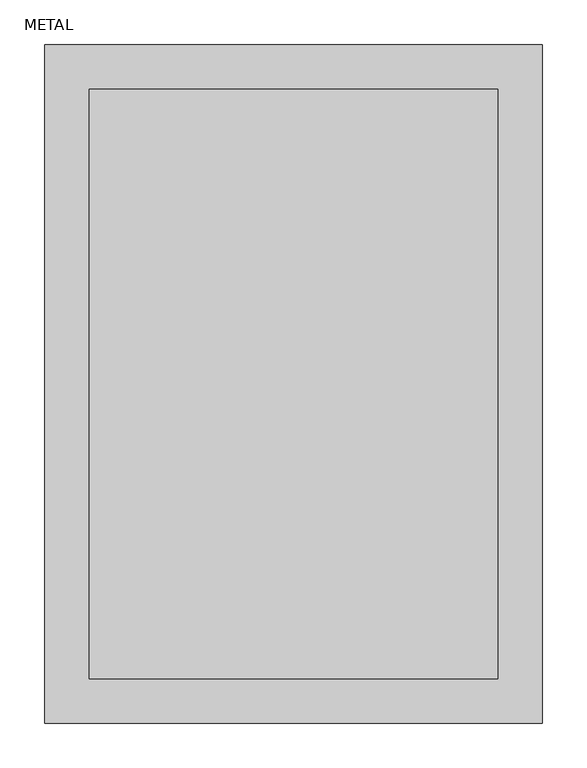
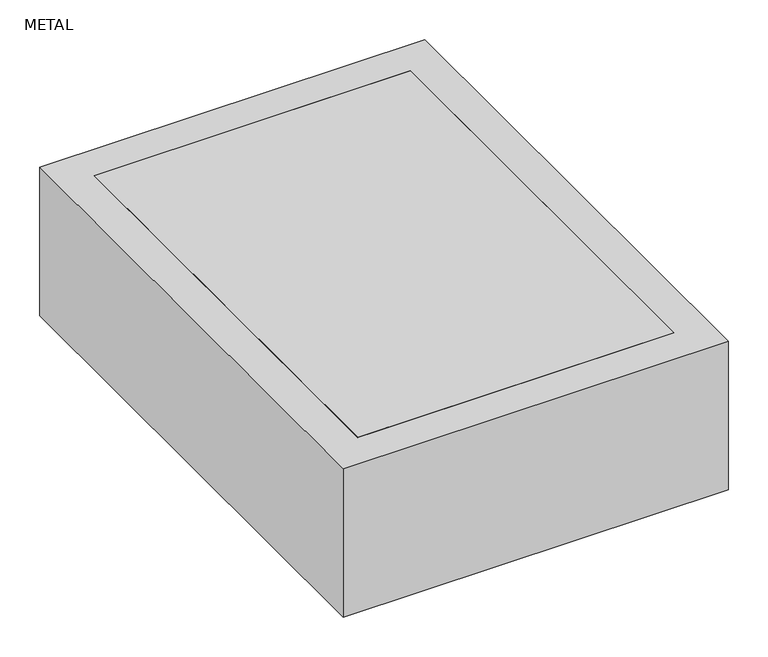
"""IFC4 building model written with IfcOpenShell, lengths in millimetres: proxy geometry, Skylite : METAL."""

import ifcopenshell
import ifcopenshell.guid

model = None  # the IFC model being written
_history = None  # IfcOwnerHistory: only IFC2X3 demands one
_inside = {}  # id of a spatial element -> (the spatial element, [elements in it])
_under = {}  # id of a project, library or spatial element -> (it, [spatial elements below it])
_declared = {}  # id of a project -> (the project, [libraries it declares])
_typed = {}  # id of a type object -> (the type object, [elements of that type])
_made_of = {}  # id of a material, layer set ... -> (it, [elements and type objects made of it])


def new_model(schema):
    """Start an empty IFC model of exactly this schema.

    Asked for "IFC4X3", IfcOpenShell would pick the latest addendum, in which some entities
    have other attributes; the version numbers below select the first issue.
    IFC2X3 requires an IfcOwnerHistory on every rooted entity: one is made here for all.
    """
    global model, _history
    if schema == "IFC4X3":
        model = ifcopenshell.file(schema_version=(4, 3, 0, 0))
    else:
        model = ifcopenshell.file(schema=schema)
    _inside.clear()
    _under.clear()
    _declared.clear()
    _typed.clear()
    _made_of.clear()
    _history = None
    if model.schema == "IFC2X3":
        org = make("IfcOrganization", Name="unknown")
        user = make(
            "IfcPersonAndOrganization",
            ThePerson=make("IfcPerson", FamilyName="unknown"),
            TheOrganization=org,
        )
        app = make(
            "IfcApplication",
            ApplicationDeveloper=org,
            Version="unknown",
            ApplicationFullName="unknown",
            ApplicationIdentifier="unknown",
        )
        _history = make(
            "IfcOwnerHistory",
            OwningUser=user,
            OwningApplication=app,
            ChangeAction="ADDED",
            CreationDate=0,
        )
    return model


def make(cls, **values):
    """One entity of the class cls with the attributes given. An attribute that is None is left unset."""
    return model.create_entity(
        cls, **{name: value for name, value in values.items() if value is not None}
    )


def rooted(cls, **values):
    """An entity with a GlobalId (a new one), such as an element, a storey or a relation."""
    return make(cls, GlobalId=ifcopenshell.guid.new(), OwnerHistory=_history, **values)


def si_unit(unit_type, name, prefix=None):
    """IfcSIUnit, for example si_unit("LENGTHUNIT", "METRE", prefix="MILLI")."""
    return make("IfcSIUnit", UnitType=unit_type, Prefix=prefix, Name=name)


def assignment(units):
    """IfcUnitAssignment: the units of a project."""
    return None if units is None else make("IfcUnitAssignment", Units=units)


def point(xyz):
    """IfcCartesianPoint."""
    return None if xyz is None else make("IfcCartesianPoint", Coordinates=xyz)


def direction(xyz):
    """IfcDirection."""
    return None if xyz is None else make("IfcDirection", DirectionRatios=xyz)


def frame(location, z_axis=None, x_axis=None):
    """IfcAxis2Placement3D, a coordinate frame: its origin and axes. An axis left out is left unset."""
    return make(
        "IfcAxis2Placement3D",
        Location=point(location),
        Axis=direction(z_axis),
        RefDirection=direction(x_axis),
    )


def origin():
    """The frame at (0, 0, 0) with its axes left unset."""
    return frame((0.0, 0.0, 0.0))


def place(relative_to, where):
    """IfcLocalPlacement: puts the frame where relative to a parent placement (None: the world)."""
    return make(
        "IfcLocalPlacement", PlacementRelTo=relative_to, RelativePlacement=where
    )


def context(
    kind, dimensions, precision=None, world=None, true_north=None, identifier=None
):
    """IfcGeometricRepresentationContext, for example the 3D "Model" context."""
    return make(
        "IfcGeometricRepresentationContext",
        ContextIdentifier=identifier,
        ContextType=kind,
        CoordinateSpaceDimension=dimensions,
        Precision=precision,
        WorldCoordinateSystem=world,
        TrueNorth=true_north,
    )


def project(units=None, contexts=None):
    """IfcProject with its units and contexts."""
    return rooted(
        "IfcProject",
        Name="project",
        RepresentationContexts=contexts,
        UnitsInContext=assignment(units),
    )


def spatial(cls, under=None, at=None, **own):
    """A site, building, storey or space (cls), placed at a placement, below another one or the project."""
    s = rooted(cls, ObjectPlacement=at, **own)
    if under is not None:
        _under.setdefault(under.id(), (under, []))[1].append(s)
    return s


def polyline(points):
    """IfcPolyline through the points."""
    return make("IfcPolyline", Points=[point(p) for p in points])


def outline(outer, holes=None, kind="AREA"):
    """IfcArbitraryClosedProfileDef: a profile drawn as a closed curve; with holes, ...WithVoids."""
    if holes is None:
        return make("IfcArbitraryClosedProfileDef", ProfileType=kind, OuterCurve=outer)
    return make(
        "IfcArbitraryProfileDefWithVoids",
        ProfileType=kind,
        OuterCurve=outer,
        InnerCurves=holes,
    )


def extrude(swept, where, along, depth):
    """IfcExtrudedAreaSolid: the profile swept, set in the frame where, extruded along a direction by depth."""
    return make(
        "IfcExtrudedAreaSolid",
        SweptArea=swept,
        Position=where,
        ExtrudedDirection=direction(along),
        Depth=depth,
    )


def shape(context_of_items, identifier, shape_type, items):
    """IfcShapeRepresentation: the items that make up one representation, for example the "Body"."""
    return make(
        "IfcShapeRepresentation",
        ContextOfItems=context_of_items,
        RepresentationIdentifier=identifier,
        RepresentationType=shape_type,
        Items=items,
    )


def source(mapping_origin, context_of_items, identifier, shape_type, items):
    """IfcRepresentationMap: a shape defined once, which mapped items show again and again."""
    return make(
        "IfcRepresentationMap",
        MappingOrigin=mapping_origin,
        MappedRepresentation=shape(context_of_items, identifier, shape_type, items),
    )


def transform(
    local_origin,
    x_axis=None,
    y_axis=None,
    z_axis=None,
    scale=None,
    scale2=None,
    scale3=None,
    uniform=True,
):
    """IfcCartesianTransformationOperator3D, or its non-uniform kind. x_axis, y_axis, z_axis: its Axis1, 2, 3."""
    if uniform:
        return make(
            "IfcCartesianTransformationOperator3D",
            Axis1=direction(x_axis),
            Axis2=direction(y_axis),
            LocalOrigin=point(local_origin),
            Scale=scale,
            Axis3=direction(z_axis),
        )
    return make(
        "IfcCartesianTransformationOperator3DnonUniform",
        Axis1=direction(x_axis),
        Axis2=direction(y_axis),
        LocalOrigin=point(local_origin),
        Scale=scale,
        Axis3=direction(z_axis),
        Scale2=scale2,
        Scale3=scale3,
    )


def mapped(mapping_source, mapping_target):
    """IfcMappedItem: shows the shape of a source again, moved by a transform."""
    return make(
        "IfcMappedItem", MappingSource=mapping_source, MappingTarget=mapping_target
    )


def made_of(thing, what):
    """Note that an element or type object is made of a material, layer set ...; save() writes the relation."""
    if what is not None:
        _made_of.setdefault(what.id(), (what, []))[1].append(thing)
    return thing


def element(
    cls,
    number,
    at=None,
    inside=None,
    cuts=None,
    type_object=None,
    material=None,
    context=None,
    identifier="Body",
    shape_type=None,
    held_by="IfcProductDefinitionShape",
    body=None,
    shapes=None,
    **own,
):
    """One element of the class cls, such as IfcWall. Its Tag is "e" and its number.

    at: its placement. inside: the storey or other place that contains it. cuts: it is an
    opening in that element (IfcRelVoidsElement). A single representation is given by context,
    identifier, shape_type and body (its items); several are given by shapes. held_by: the class
    of the entity that holds the representations. save() writes the other relations.
    """
    e = rooted(cls, Tag="e%d" % number, ObjectPlacement=at, **own)
    if body is not None:
        shapes = [shape(context, identifier, shape_type, body)]
    if shapes is not None:
        e.Representation = make(held_by, Representations=shapes)
    if inside is not None:
        _inside.setdefault(inside.id(), (inside, []))[1].append(e)
    if cuts is not None:
        rooted(
            "IfcRelVoidsElement", RelatingBuildingElement=cuts, RelatedOpeningElement=e
        )
    if type_object is not None:
        _typed.setdefault(type_object.id(), (type_object, []))[1].append(e)
    return made_of(e, material)


def aggregate(whole, parts):
    """IfcRelAggregates: a whole, such as a stair, and the parts it consists of."""
    return rooted("IfcRelAggregates", RelatingObject=whole, RelatedObjects=parts)


def save(model, path):
    """Write the relations noted so far, then the file.

    IfcRelAggregates (storeys below a building ...), IfcRelContainedInSpatialStructure (elements
    in a storey), IfcRelDefinesByType, IfcRelAssociatesMaterial and IfcRelDeclares: one each for
    every whole, place, type object, material and project.
    """
    for whole, parts in _under.values():
        aggregate(whole, parts)
    for where, things in _inside.values():
        rooted(
            "IfcRelContainedInSpatialStructure",
            RelatedElements=things,
            RelatingStructure=where,
        )
    for kind, things in _typed.values():
        rooted("IfcRelDefinesByType", RelatedObjects=things, RelatingType=kind)
    for what, things in _made_of.values():
        rooted("IfcRelAssociatesMaterial", RelatedObjects=things, RelatingMaterial=what)
    for by, libraries in _declared.values():
        rooted("IfcRelDeclares", RelatingContext=by, RelatedDefinitions=libraries)
    model.write(path)


def metal_40af2144(model_context):
    return source(origin(), model_context, "Body", "SweptSolid", [
        extrude(outline(polyline([(-229.4, 331.0), (229.4, 331.0), (229.4, -331.0), (-229.4, -331.0), (-229.4, 331.0)])), frame((0.0, 0.0, 4182.4595878), z_axis=(0.0, 0.0, 1.0), x_axis=(1.0, 0.0, 0.0)), (0.0, 0.0, 1.0), 20.0),
        extrude(outline(polyline([(-279.4, -381.0), (-279.4, 381.0), (279.4, 381.0), (279.4, -381.0), (-279.4, -381.0)]), holes=[polyline([(229.4, 331.0), (-229.4, 331.0), (-229.4, -331.0), (229.4, -331.0), (229.4, 331.0)])]), frame((0.0, 0.0, 3974.6408791), z_axis=(0.0, 0.0, 1.0), x_axis=(1.0, 0.0, 0.0)), (0.0, 0.0, 1.0), 227.8187087),
    ])


if __name__ == "__main__":
    model = new_model("IFC4")
    model_context = context("Model", 3, world=origin())
    ifc_project = project(units=[si_unit("LENGTHUNIT", "METRE", prefix="MILLI")], contexts=[model_context])
    site = spatial("IfcSite", under=ifc_project)
    building = spatial("IfcBuilding", under=site)
    placement = place(None, origin())
    metal_shape = metal_40af2144(model_context)
    element("IfcBuildingElementProxy", 1, Name="Skylite : METAL", ObjectType="Skylite : METAL", at=placement, inside=building, context=model_context, shape_type="MappedRepresentation", body=[
        mapped(metal_shape, transform((0.0, 0.0, 0.0), x_axis=(1.0, 0.0, 0.0), y_axis=(0.0, 1.0, 0.0), z_axis=(0.0, 0.0, 1.0))),
    ])
    save(model, "model.ifc")
